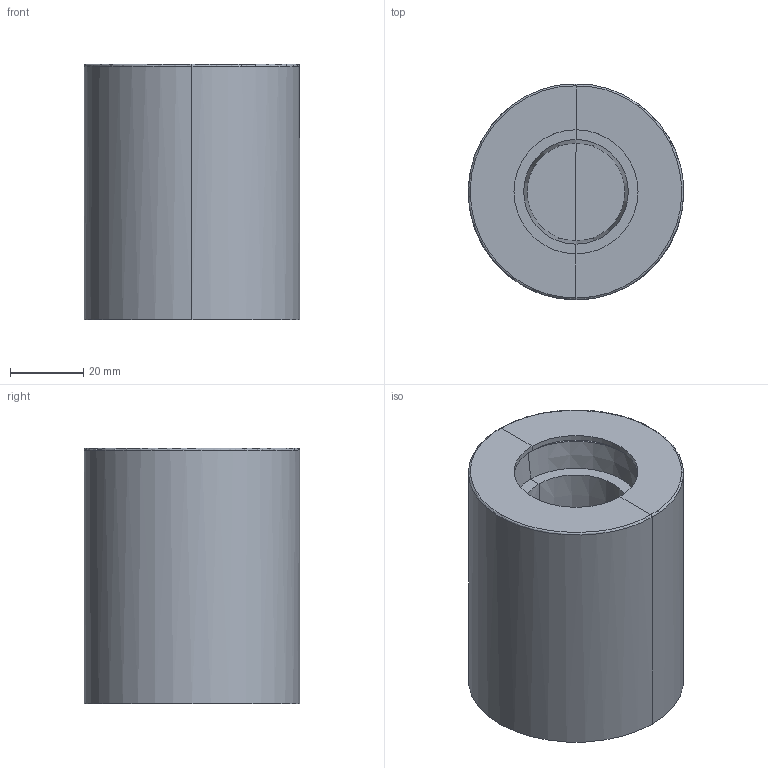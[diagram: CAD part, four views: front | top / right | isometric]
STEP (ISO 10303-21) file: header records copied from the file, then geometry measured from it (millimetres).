
FILE_DESCRIPTION(/* description */ (''),/* implementation_level */ '2;1');
FILE_NAME(/* name */ 'C:\Users\FrancoSartori\Documents\FARO\03_Completados\TEN\03_Publicación\62155.stp',/* time_stamp */ '2021-07-06T14:45:02+02:00',/* author */ ('FrancoSartori'),/* organization */ (''),/* preprocessor_version */ 'ST-DEVELOPER v18.1',/* originating_system */ 'AutoCAD Mechanical',/* authorisation */ '');
FILE_SCHEMA (('AUTOMOTIVE_DESIGN { 1 0 10303 214 3 1 1 }'));
Length unit declared in the file: millimetre
Products named in the file (2): Product; 62150_ 62151_ 62152_ 62153_ 62154_ 62155_ - lamp-453897-Export
Assembly tree (1 placements, depth 2):
  Product
    62150_ 62151_ 62152_ 62153_ 62154_ 62155_ - lamp-453897-Export
Bounding box: 59.01 x 59.01 x 70 mm (x, y, z)
Volume: 47610.5 mm3; surface area: 42003.6 mm2
Topology: 2 solids, 2 shells, 52 faces, 124 edges, 74 vertices
Faces by surface type: plane 22, cylinder 20, cone 8, torus 2
Entity records: 1673 total; most frequent: CARTESIAN_POINT 387, DIRECTION 282, ORIENTED_EDGE 248, EDGE_CURVE 124, AXIS2_PLACEMENT_3D 117, VERTEX_POINT 74, CIRCLE 62, EDGE_LOOP 58
